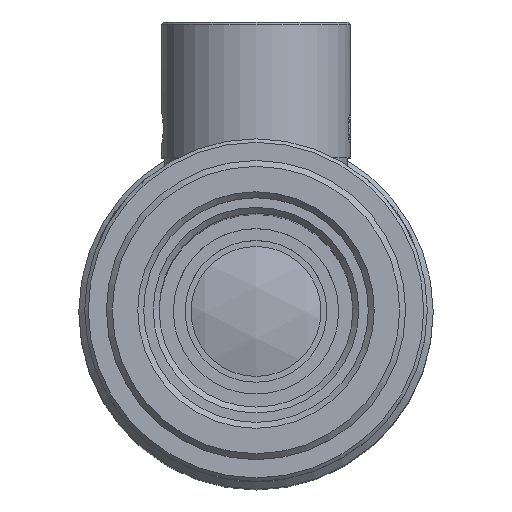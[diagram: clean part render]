
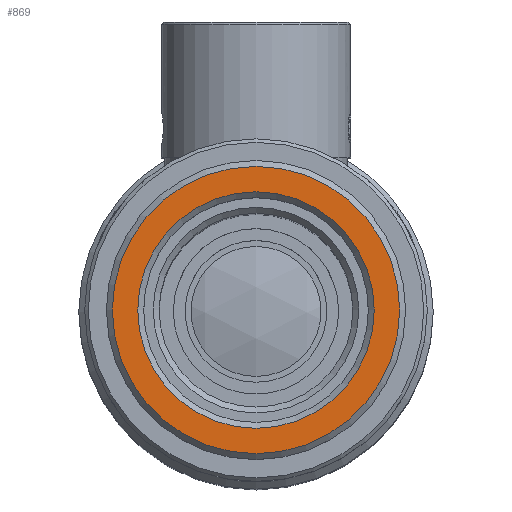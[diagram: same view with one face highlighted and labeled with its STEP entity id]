
A CAD part, top view. The second image highlights one B-rep face of the part: STEP entity #869.
In plain terms, the highlighted planar face has unit normal (0, 0, 1).
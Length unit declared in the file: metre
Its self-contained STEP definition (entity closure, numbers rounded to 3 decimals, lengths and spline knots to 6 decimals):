
#869=ADVANCED_FACE('NONE',(#1929,#1930),#1931,.F.);
#1929=FACE_BOUND('',#3207,.T.);
#1930=FACE_OUTER_BOUND('',#3208,.T.);
#1931=PLANE('',#3209);
#3207=EDGE_LOOP('',(#5443));
#3208=EDGE_LOOP('',(#5444));
#3209=AXIS2_PLACEMENT_3D('',#5445,#5446,#5447);
#5443=ORIENTED_EDGE('',*,*,#6792,.T.);
#5444=ORIENTED_EDGE('',*,*,#6787,.T.);
#5445=CARTESIAN_POINT('',(0.,0.01266,0.0));
#5446=DIRECTION('',(0.,0.0,-1.0));
#5447=DIRECTION('',(-1.0,0.0,0.));
#6787=EDGE_CURVE('NONE',#8098,#8098,#8099,.T.);
#6792=EDGE_CURVE('NONE',#8106,#8106,#8107,.T.);
#8098=VERTEX_POINT('',#10373);
#8099=CIRCLE('',#10374,0.01216);
#8106=VERTEX_POINT('',#10381);
#8107=CIRCLE('',#10382,0.01001);
#10373=CARTESIAN_POINT('',(-0.01216,0.0,0.));
#10374=AXIS2_PLACEMENT_3D('',#11822,#11823,#11824);
#10381=CARTESIAN_POINT('',(-0.01001,0.0,0.));
#10382=AXIS2_PLACEMENT_3D('',#11831,#11832,#11833);
#11822=CARTESIAN_POINT('',(0.,0.0,0.0));
#11823=DIRECTION('',(0.,0.0,1.0));
#11824=DIRECTION('',(-1.0,0.0,0.));
#11831=CARTESIAN_POINT('',(0.,0.0,0.0));
#11832=DIRECTION('',(0.,0.0,-1.0));
#11833=DIRECTION('',(-1.0,0.0,0.));
